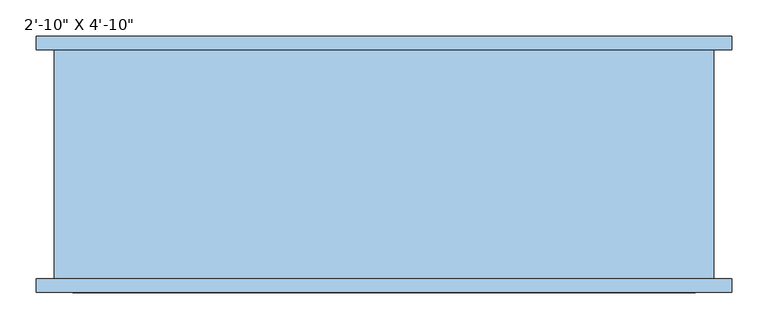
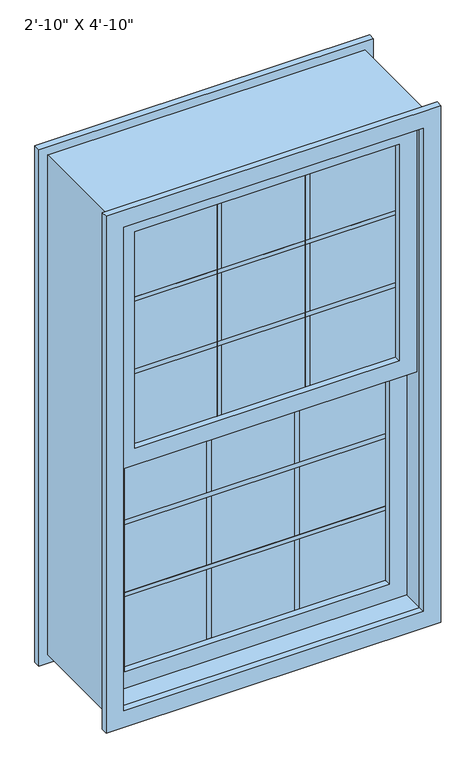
"""IFC4 building model written with IfcOpenShell, lengths in millimetres: window geometry."""

from ifc_helpers import new_model, si_unit, frame, origin, place, context, project, spatial, polyline, outline, extrude, source, transform, mapped, element, save


def window_a2dd4ec8(model_context):
    return source(origin(), model_context, "Body", "SweptSolid", [
        extrude(outline(polyline([(2286.0, 431.8), (2286.0, -431.8), (1524.0, -431.8), (1524.0, 431.8), (2286.0, 431.8)]), holes=[polyline([(2235.2, 381.0), (1574.8, 381.0), (1574.8, -381.0), (2235.2, -381.0), (2235.2, 381.0)])]), frame((0.0, -146.05, 0.0), z_axis=(0.0, 1.0, 0.0), x_axis=(0.0, 0.0, 1.0)), (0.0, 0.0, 1.0), 50.8),
        extrude(outline(polyline([(-381.0, -114.3), (381.0, -114.3), (381.0, -127.0), (-381.0, -127.0), (-381.0, -114.3)])), frame((0.0, 0.0, 2008.7166667), z_axis=(0.0, 0.0, 1.0), x_axis=(1.0, 0.0, 0.0)), (0.0, 0.0, 1.0), 12.7),
        extrude(outline(polyline([(-381.0, -114.3), (381.0, -114.3), (381.0, -127.0), (-381.0, -127.0), (-381.0, -114.3)])), frame((0.0, 0.0, 1788.5833333), z_axis=(0.0, 0.0, 1.0), x_axis=(1.0, 0.0, 0.0)), (0.0, 0.0, 1.0), 12.7),
        extrude(outline(polyline([(-133.35, -114.3), (-120.65, -114.3), (-120.65, -127.0), (-133.35, -127.0), (-133.35, -114.3)])), frame((0.0, 0.0, 1574.8), z_axis=(0.0, 0.0, 1.0), x_axis=(1.0, 0.0, 0.0)), (0.0, 0.0, 1.0), 660.4),
        extrude(outline(polyline([(120.65, -114.3), (133.35, -114.3), (133.35, -127.0), (120.65, -127.0), (120.65, -114.3)])), frame((0.0, 0.0, 1574.8), z_axis=(0.0, 0.0, 1.0), x_axis=(1.0, 0.0, 0.0)), (0.0, 0.0, 1.0), 660.4),
        extrude(outline(polyline([(-381.0, -114.3), (381.0, -114.3), (381.0, -127.0), (-381.0, -127.0), (-381.0, -114.3)])), frame((0.0, 0.0, 1574.8), z_axis=(0.0, 0.0, 1.0), x_axis=(1.0, 0.0, 0.0)), (0.0, 0.0, 1.0), 660.4),
        extrude(outline(polyline([(-381.0, -63.5), (381.0, -63.5), (381.0, -76.2), (-381.0, -76.2), (-381.0, -63.5)])), frame((0.0, 0.0, 1077.3833333), z_axis=(0.0, 0.0, 1.0), x_axis=(1.0, 0.0, 0.0)), (0.0, 0.0, 1.0), 12.7),
        extrude(outline(polyline([(-381.0, -63.5), (381.0, -63.5), (381.0, -76.2), (-381.0, -76.2), (-381.0, -63.5)])), frame((0.0, 0.0, 1297.5166667), z_axis=(0.0, 0.0, 1.0), x_axis=(1.0, 0.0, 0.0)), (0.0, 0.0, 1.0), 12.7),
        extrude(outline(polyline([(120.65, -63.5), (133.35, -63.5), (133.35, -76.2), (120.65, -76.2), (120.65, -63.5)])), frame((0.0, 0.0, 863.6), z_axis=(0.0, 0.0, 1.0), x_axis=(1.0, 0.0, 0.0)), (0.0, 0.0, 1.0), 660.4),
        extrude(outline(polyline([(-133.35, -63.5), (-120.65, -63.5), (-120.65, -76.2), (-133.35, -76.2), (-133.35, -63.5)])), frame((0.0, 0.0, 863.6), z_axis=(0.0, 0.0, 1.0), x_axis=(1.0, 0.0, 0.0)), (0.0, 0.0, 1.0), 660.4),
        extrude(outline(polyline([(-381.0, -63.5), (381.0, -63.5), (381.0, -76.2), (-381.0, -76.2), (-381.0, -63.5)])), frame((0.0, 0.0, 863.6), z_axis=(0.0, 0.0, 1.0), x_axis=(1.0, 0.0, 0.0)), (0.0, 0.0, 1.0), 660.4),
        extrude(outline(polyline([(1574.8, -431.8), (812.8, -431.8), (812.8, 431.8), (1574.8, 431.8), (1574.8, -431.8)]), holes=[polyline([(1524.0, 381.0), (863.6, 381.0), (863.6, -381.0), (1524.0, -381.0), (1524.0, 381.0)])]), frame((0.0, -95.25, 0.0), z_axis=(0.0, 1.0, 0.0), x_axis=(0.0, 0.0, 1.0)), (0.0, 0.0, 1.0), 50.8),
        extrude(outline(polyline([(2336.8, -482.6), (762.0, -482.6), (762.0, 482.6), (2336.8, 482.6), (2336.8, -482.6)]), holes=[polyline([(2286.0, -431.8), (2286.0, 431.8), (812.8, 431.8), (812.8, -431.8), (2286.0, -431.8)])]), frame((0.0, 158.75, 0.0), z_axis=(0.0, 1.0, 0.0), x_axis=(0.0, 0.0, 1.0)), (0.0, 0.0, 1.0), 19.05),
        extrude(outline(polyline([(2336.8, -482.6), (762.0, -482.6), (762.0, 482.6), (2336.8, 482.6), (2336.8, -482.6)]), holes=[polyline([(2286.0, -431.8), (2286.0, 431.8), (812.8, 431.8), (812.8, -431.8), (2286.0, -431.8)])]), frame((0.0, -177.8, 0.0), z_axis=(0.0, 1.0, 0.0), x_axis=(0.0, 0.0, 1.0)), (0.0, 0.0, 1.0), 19.05),
        extrude(outline(polyline([(2311.4, 457.2), (2311.4, -457.2), (787.4, -457.2), (787.4, 457.2), (2311.4, 457.2)]), holes=[polyline([(2286.0, -431.8), (2286.0, 431.8), (812.8, 431.8), (812.8, -431.8), (2286.0, -431.8)])]), frame((0.0, -158.75, 0.0), z_axis=(0.0, 1.0, 0.0), x_axis=(0.0, 0.0, 1.0)), (0.0, 0.0, 1.0), 317.5),
    ])


if __name__ == "__main__":
    model = new_model("IFC4")
    model_context = context("Model", 3, world=origin())
    ifc_project = project(units=[si_unit("LENGTHUNIT", "METRE", prefix="MILLI")], contexts=[model_context])
    site = spatial("IfcSite", under=ifc_project)
    building = spatial("IfcBuilding", under=site)
    placement = place(None, origin())
    window_shape = window_a2dd4ec8(model_context)
    element("IfcWindow", 1, ObjectType="C_Window Guilotine : 2'-10\" X 4'-10\"", at=placement, inside=building, context=model_context, shape_type="MappedRepresentation", body=[
        mapped(window_shape, transform((0.0, 0.0, 0.0), x_axis=(1.0, 0.0, 0.0), y_axis=(0.0, 1.0, 0.0), z_axis=(0.0, 0.0, 1.0))),
    ])
    save(model, "model.ifc")
